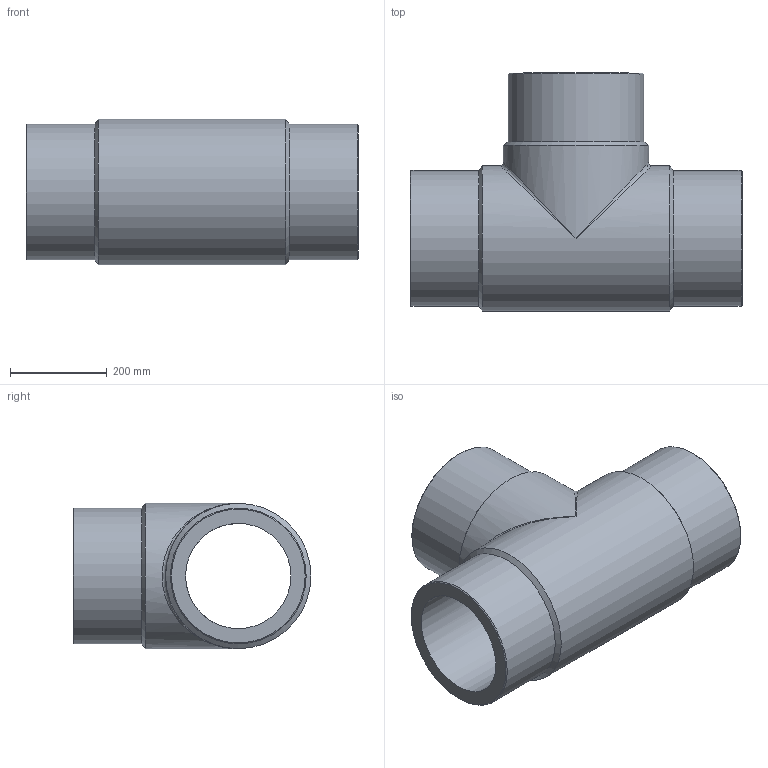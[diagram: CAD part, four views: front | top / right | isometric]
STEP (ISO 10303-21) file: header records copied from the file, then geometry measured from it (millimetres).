
FILE_DESCRIPTION(/* description */ ('Unknown'),/* implementation_level */ '2;1');
FILE_NAME(/* name */ 'TP280G',/* time_stamp */ '2021-08-10T14:54:45+02:00',/* author */ ('Unknown'),/* organization */ ('Unknown'),/* preprocessor_version */ 'ST-DEVELOPER v16.7',/* originating_system */ 'Solid Edge',/* authorisation */ 'Unknown');
FILE_SCHEMA (('AUTOMOTIVE_DESIGN {1 0 10303 214 3 1 1}'));
Length unit declared in the file: millimetre
Products named in the file (1): TP280G
Bounding box: 685 x 491 x 300 mm (x, y, z)
Volume: 24877373.4 mm3; surface area: 1448542.4 mm2
Topology: 1 solids, 1 shells, 18 faces, 44 edges, 23 vertices
Faces by surface type: cylinder 7, cone 6, plane 3, bspline 2
Full cylindrical faces by diameter (mm): 217.4 x2, 280 x3, 300 x2
Entity records: 528 total; most frequent: CARTESIAN_POINT 171, DIRECTION 76, ORIENTED_EDGE 42, AXIS2_PLACEMENT_3D 38, EDGE_LOOP 36, FACE_BOUND 36, EDGE_CURVE 21, VERTEX_POINT 19
